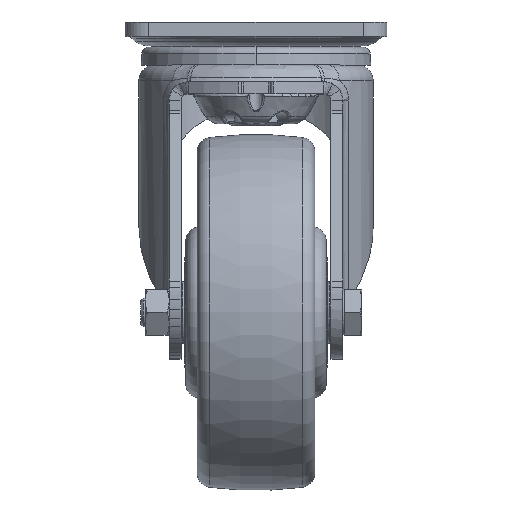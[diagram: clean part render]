
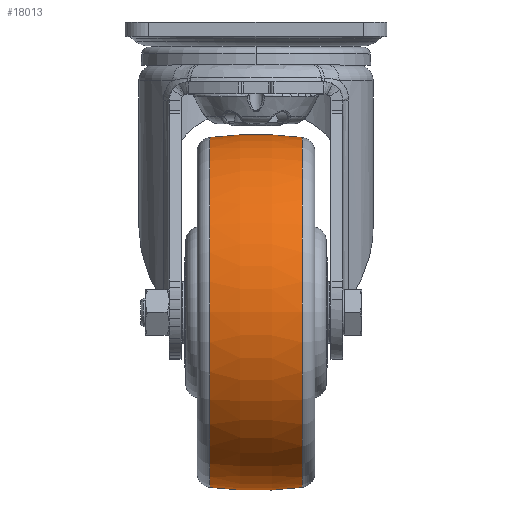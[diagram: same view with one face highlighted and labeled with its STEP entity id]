
A CAD part, top view. The second image highlights one B-rep face of the part: STEP entity #18013.
In plain terms, the highlighted toroidal (fillet/blend) face has major radius 75.25 mm and minor radius 150 mm.
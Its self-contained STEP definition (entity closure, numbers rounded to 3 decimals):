
#1732 = DIRECTION ( 'NONE',  ( 0.13, -0.991, 0. ) ) ;
#4897 = CIRCLE ( 'NONE', #33773, 150. ) ;
#6243 = DIRECTION ( 'NONE',  ( 0., 1., 0. ) ) ;
#10607 = VERTEX_POINT ( 'NONE', #49259 ) ;
#11620 = EDGE_CURVE ( 'NONE', #66632, #51145, #64113, .T. ) ;
#11862 = DIRECTION ( 'NONE',  ( 0., 0., -1. ) ) ;
#13893 = TOROIDAL_SURFACE ( 'NONE', #61015, -75.25, 150. ) ;
#16144 = VERTEX_POINT ( 'NONE', #54988 ) ;
#16956 = DIRECTION ( 'NONE',  ( 0., 0., 1. ) ) ;
#17506 = ORIENTED_EDGE ( 'NONE', *, *, #11620, .T. ) ;
#18013 = ADVANCED_FACE ( 'NONE', ( #64156 ), #13893, .T. ) ;
#19289 = CIRCLE ( 'NONE', #22679, 73.473 ) ;
#19291 = CARTESIAN_POINT ( 'NONE',  ( -19.531, 0., 0. ) ) ;
#19357 = CARTESIAN_POINT ( 'NONE',  ( -19.531, -73.473, 0. ) ) ;
#20457 = DIRECTION ( 'NONE',  ( 0., 1., 0. ) ) ;
#21760 = CARTESIAN_POINT ( 'NONE',  ( 0., 75.25, 0. ) ) ;
#22101 = EDGE_CURVE ( 'NONE', #10607, #51145, #19289, .T. ) ;
#22679 = AXIS2_PLACEMENT_3D ( 'NONE', #19291, #49918, #61272 ) ;
#25121 = EDGE_CURVE ( 'NONE', #16144, #66632, #52805, .T. ) ;
#30360 = EDGE_LOOP ( 'NONE', ( #58093, #17506, #38456, #43187 ) ) ;
#30645 = AXIS2_PLACEMENT_3D ( 'NONE', #21760, #11862, #1732 ) ;
#32563 = CARTESIAN_POINT ( 'NONE',  ( 0., -75.25, 0. ) ) ;
#33773 = AXIS2_PLACEMENT_3D ( 'NONE', #32563, #16956, #53798 ) ;
#35282 = CARTESIAN_POINT ( 'NONE',  ( 19.531, -73.473, 0. ) ) ;
#36061 = CARTESIAN_POINT ( 'NONE',  ( 0., 0., 0. ) ) ;
#36841 = DIRECTION ( 'NONE',  ( -1., 0., 0. ) ) ;
#38456 = ORIENTED_EDGE ( 'NONE', *, *, #22101, .F. ) ;
#43187 = ORIENTED_EDGE ( 'NONE', *, *, #66229, .F. ) ;
#49259 = CARTESIAN_POINT ( 'NONE',  ( -19.531, 73.473, 0. ) ) ;
#49918 = DIRECTION ( 'NONE',  ( -1., 0., 0. ) ) ;
#51145 = VERTEX_POINT ( 'NONE', #19357 ) ;
#51969 = AXIS2_PLACEMENT_3D ( 'NONE', #53473, #36841, #6243 ) ;
#52805 = CIRCLE ( 'NONE', #51969, 73.473 ) ;
#53473 = CARTESIAN_POINT ( 'NONE',  ( 19.531, 0., 0. ) ) ;
#53798 = DIRECTION ( 'NONE',  ( 0.13, 0.991, 0. ) ) ;
#54988 = CARTESIAN_POINT ( 'NONE',  ( 19.531, 73.473, 0. ) ) ;
#58093 = ORIENTED_EDGE ( 'NONE', *, *, #25121, .T. ) ;
#61015 = AXIS2_PLACEMENT_3D ( 'NONE', #36061, #62633, #20457 ) ;
#61272 = DIRECTION ( 'NONE',  ( 0., 1., 0. ) ) ;
#62633 = DIRECTION ( 'NONE',  ( 1., 0., 0. ) ) ;
#64113 = CIRCLE ( 'NONE', #30645, 150. ) ;
#64156 = FACE_OUTER_BOUND ( 'NONE', #30360, .T. ) ;
#66229 = EDGE_CURVE ( 'NONE', #16144, #10607, #4897, .T. ) ;
#66632 = VERTEX_POINT ( 'NONE', #35282 ) ;
